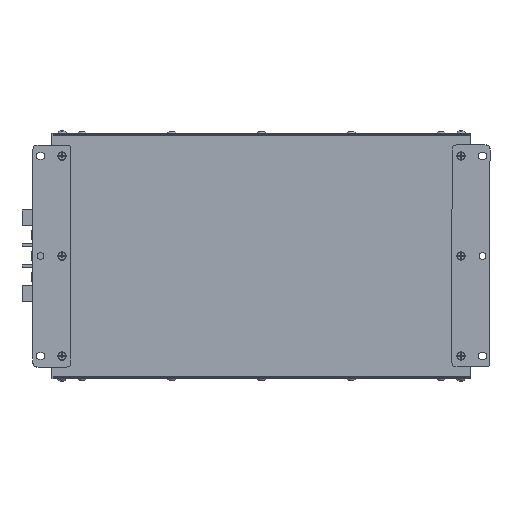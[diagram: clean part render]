
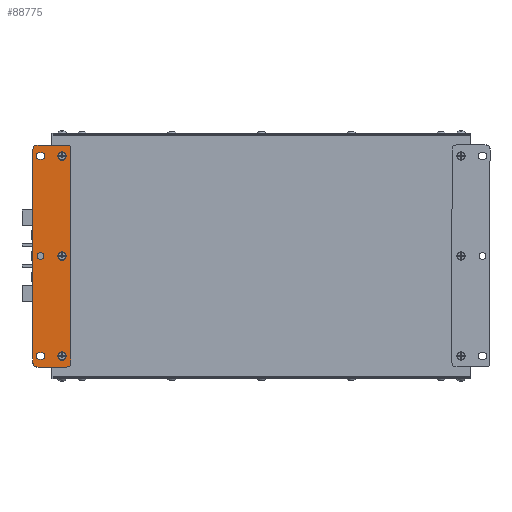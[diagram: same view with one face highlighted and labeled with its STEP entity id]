
A CAD part, front view. The second image highlights one B-rep face of the part: STEP entity #88775.
In plain terms, the highlighted planar face has unit normal (0, -1, 0).
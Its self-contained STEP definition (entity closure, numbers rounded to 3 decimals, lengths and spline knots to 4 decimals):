
#2374=CIRCLE('',#93453,0.1673);
#2375=CIRCLE('',#93455,0.1575);
#2376=CIRCLE('',#93456,0.1575);
#2377=CIRCLE('',#93457,0.1575);
#2378=CIRCLE('',#93458,0.1575);
#2379=CIRCLE('',#93459,0.1673);
#2380=CIRCLE('',#93460,0.1299);
#2381=CIRCLE('',#93461,0.1299);
#2382=CIRCLE('',#93462,0.1299);
#2383=CIRCLE('',#93463,0.1299);
#2384=CIRCLE('',#93464,0.1299);
#2385=CIRCLE('',#93465,0.1673);
#5634=FACE_BOUND('',#14171,.T.);
#5635=FACE_BOUND('',#14172,.T.);
#5636=FACE_BOUND('',#14173,.T.);
#5637=FACE_BOUND('',#14174,.T.);
#5638=FACE_BOUND('',#14175,.T.);
#5639=FACE_BOUND('',#14176,.T.);
#9636=FACE_OUTER_BOUND('',#14170,.T.);
#14170=EDGE_LOOP('',(#58555,#58556,#58557,#58558,#58559,#58560,#58561,#58562));
#14171=EDGE_LOOP('',(#58563));
#14172=EDGE_LOOP('',(#58564,#58565,#58566,#58567));
#14173=EDGE_LOOP('',(#58568,#58569,#58570,#58571));
#14174=EDGE_LOOP('',(#58572));
#14175=EDGE_LOOP('',(#58573));
#14176=EDGE_LOOP('',(#58574));
#19716=LINE('',#128077,#26827);
#19717=LINE('',#128081,#26828);
#19718=LINE('',#128085,#26829);
#19719=LINE('',#128089,#26830);
#19720=LINE('',#128095,#26831);
#19721=LINE('',#128099,#26832);
#19722=LINE('',#128103,#26833);
#19723=LINE('',#128107,#26834);
#26827=VECTOR('',#102716,0.3937);
#26828=VECTOR('',#102719,0.3937);
#26829=VECTOR('',#102722,0.3937);
#26830=VECTOR('',#102725,0.3937);
#26831=VECTOR('',#102730,0.3937);
#26832=VECTOR('',#102733,0.3937);
#26833=VECTOR('',#102736,0.3937);
#26834=VECTOR('',#102739,0.3937);
#34115=VERTEX_POINT('',#128071);
#34116=VERTEX_POINT('',#128075);
#34117=VERTEX_POINT('',#128076);
#34118=VERTEX_POINT('',#128078);
#34119=VERTEX_POINT('',#128080);
#34120=VERTEX_POINT('',#128082);
#34121=VERTEX_POINT('',#128084);
#34122=VERTEX_POINT('',#128086);
#34123=VERTEX_POINT('',#128088);
#34124=VERTEX_POINT('',#128091);
#34125=VERTEX_POINT('',#128093);
#34126=VERTEX_POINT('',#128094);
#34127=VERTEX_POINT('',#128096);
#34128=VERTEX_POINT('',#128098);
#34129=VERTEX_POINT('',#128101);
#34130=VERTEX_POINT('',#128102);
#34131=VERTEX_POINT('',#128104);
#34132=VERTEX_POINT('',#128106);
#34133=VERTEX_POINT('',#128109);
#34134=VERTEX_POINT('',#128111);
#43843=EDGE_CURVE('',#34115,#34115,#2374,.T.);
#43845=EDGE_CURVE('',#34116,#34117,#19716,.T.);
#43846=EDGE_CURVE('',#34117,#34118,#2375,.T.);
#43847=EDGE_CURVE('',#34118,#34119,#19717,.T.);
#43848=EDGE_CURVE('',#34119,#34120,#2376,.T.);
#43849=EDGE_CURVE('',#34120,#34121,#19718,.T.);
#43850=EDGE_CURVE('',#34121,#34122,#2377,.T.);
#43851=EDGE_CURVE('',#34122,#34123,#19719,.T.);
#43852=EDGE_CURVE('',#34123,#34116,#2378,.T.);
#43853=EDGE_CURVE('',#34124,#34124,#2379,.T.);
#43854=EDGE_CURVE('',#34125,#34126,#19720,.T.);
#43855=EDGE_CURVE('',#34126,#34127,#2380,.T.);
#43856=EDGE_CURVE('',#34127,#34128,#19721,.T.);
#43857=EDGE_CURVE('',#34128,#34125,#2381,.T.);
#43858=EDGE_CURVE('',#34129,#34130,#19722,.T.);
#43859=EDGE_CURVE('',#34130,#34131,#2382,.T.);
#43860=EDGE_CURVE('',#34131,#34132,#19723,.T.);
#43861=EDGE_CURVE('',#34132,#34129,#2383,.T.);
#43862=EDGE_CURVE('',#34133,#34133,#2384,.T.);
#43863=EDGE_CURVE('',#34134,#34134,#2385,.T.);
#58555=ORIENTED_EDGE('',*,*,#43845,.T.);
#58556=ORIENTED_EDGE('',*,*,#43846,.T.);
#58557=ORIENTED_EDGE('',*,*,#43847,.T.);
#58558=ORIENTED_EDGE('',*,*,#43848,.T.);
#58559=ORIENTED_EDGE('',*,*,#43849,.T.);
#58560=ORIENTED_EDGE('',*,*,#43850,.T.);
#58561=ORIENTED_EDGE('',*,*,#43851,.T.);
#58562=ORIENTED_EDGE('',*,*,#43852,.T.);
#58563=ORIENTED_EDGE('',*,*,#43853,.F.);
#58564=ORIENTED_EDGE('',*,*,#43854,.T.);
#58565=ORIENTED_EDGE('',*,*,#43855,.T.);
#58566=ORIENTED_EDGE('',*,*,#43856,.T.);
#58567=ORIENTED_EDGE('',*,*,#43857,.T.);
#58568=ORIENTED_EDGE('',*,*,#43858,.T.);
#58569=ORIENTED_EDGE('',*,*,#43859,.T.);
#58570=ORIENTED_EDGE('',*,*,#43860,.T.);
#58571=ORIENTED_EDGE('',*,*,#43861,.T.);
#58572=ORIENTED_EDGE('',*,*,#43862,.T.);
#58573=ORIENTED_EDGE('',*,*,#43863,.F.);
#58574=ORIENTED_EDGE('',*,*,#43843,.F.);
#82584=PLANE('',#93454);
#88775=ADVANCED_FACE('',(#9636,#5634,#5635,#5636,#5637,#5638,#5639),#82584,
 .T.);
#93453=AXIS2_PLACEMENT_3D('',#128072,#102711,#102712);
#93454=AXIS2_PLACEMENT_3D('',#128074,#102714,#102715);
#93455=AXIS2_PLACEMENT_3D('',#128079,#102717,#102718);
#93456=AXIS2_PLACEMENT_3D('',#128083,#102720,#102721);
#93457=AXIS2_PLACEMENT_3D('',#128087,#102723,#102724);
#93458=AXIS2_PLACEMENT_3D('',#128090,#102726,#102727);
#93459=AXIS2_PLACEMENT_3D('',#128092,#102728,#102729);
#93460=AXIS2_PLACEMENT_3D('',#128097,#102731,#102732);
#93461=AXIS2_PLACEMENT_3D('',#128100,#102734,#102735);
#93462=AXIS2_PLACEMENT_3D('',#128105,#102737,#102738);
#93463=AXIS2_PLACEMENT_3D('',#128108,#102740,#102741);
#93464=AXIS2_PLACEMENT_3D('',#128110,#102742,#102743);
#93465=AXIS2_PLACEMENT_3D('',#128112,#102744,#102745);
#102711=DIRECTION('center_axis',(0.,-1.,0.));
#102712=DIRECTION('ref_axis',(0.,0.,-1.));
#102714=DIRECTION('center_axis',(0.,-1.,0.));
#102715=DIRECTION('ref_axis',(-1.,0.,0.));
#102716=DIRECTION('',(-1.,0.,0.));
#102717=DIRECTION('center_axis',(0.,-1.,0.));
#102718=DIRECTION('ref_axis',(0.,0.,1.));
#102719=DIRECTION('',(0.,0.,-1.));
#102720=DIRECTION('center_axis',(0.,-1.,0.));
#102721=DIRECTION('ref_axis',(-1.,0.,0.));
#102722=DIRECTION('',(1.,0.,0.));
#102723=DIRECTION('center_axis',(0.,-1.,0.));
#102724=DIRECTION('ref_axis',(0.,0.,-1.));
#102725=DIRECTION('',(0.,0.,1.));
#102726=DIRECTION('center_axis',(0.,-1.,0.));
#102727=DIRECTION('ref_axis',(1.,0.,0.));
#102728=DIRECTION('center_axis',(0.,-1.,0.));
#102729=DIRECTION('ref_axis',(0.,0.,-1.));
#102730=DIRECTION('',(1.,0.,0.));
#102731=DIRECTION('center_axis',(0.,1.,0.));
#102732=DIRECTION('ref_axis',(0.,0.,1.));
#102733=DIRECTION('',(-1.,0.,0.));
#102734=DIRECTION('center_axis',(0.,1.,0.));
#102735=DIRECTION('ref_axis',(0.,0.,-1.));
#102736=DIRECTION('',(-1.,0.,0.));
#102737=DIRECTION('center_axis',(0.,1.,0.));
#102738=DIRECTION('ref_axis',(0.,0.,-1.));
#102739=DIRECTION('',(1.,0.,0.));
#102740=DIRECTION('center_axis',(0.,1.,0.));
#102741=DIRECTION('ref_axis',(0.,0.,1.));
#102742=DIRECTION('center_axis',(0.,1.,0.));
#102743=DIRECTION('ref_axis',(0.,0.,-1.));
#102744=DIRECTION('center_axis',(0.,-1.,0.));
#102745=DIRECTION('ref_axis',(0.,0.,-1.));
#128071=CARTESIAN_POINT('',(-15.9302,-0.1339,-9.4339));
#128072=CARTESIAN_POINT('Origin',(-15.9302,-0.1339,
-9.6012));
#128074=CARTESIAN_POINT('Origin',(-16.3239,-0.1339,
-5.6642));
#128075=CARTESIAN_POINT('',(-15.7333,-0.1339,-1.2941));
#128076=CARTESIAN_POINT('',(-16.9144,-0.1339,-1.2941));
#128077=CARTESIAN_POINT('',(-15.7333,-0.1339,-1.2941));
#128078=CARTESIAN_POINT('',(-17.0719,-0.1339,-1.4516));
#128079=CARTESIAN_POINT('Origin',(-16.9144,-0.1339,
-1.4516));
#128080=CARTESIAN_POINT('',(-17.0719,-0.1339,-9.8768));
#128081=CARTESIAN_POINT('',(-17.0719,-0.1339,-1.4516));
#128082=CARTESIAN_POINT('',(-16.9144,-0.1339,-10.0343));
#128083=CARTESIAN_POINT('Origin',(-16.9144,-0.1339,
-9.8768));
#128084=CARTESIAN_POINT('',(-15.7333,-0.1339,-10.0343));
#128085=CARTESIAN_POINT('',(-16.9144,-0.1339,-10.0343));
#128086=CARTESIAN_POINT('',(-15.5758,-0.1339,-9.8768));
#128087=CARTESIAN_POINT('Origin',(-15.7333,-0.1339,
-9.8768));
#128088=CARTESIAN_POINT('',(-15.5758,-0.1339,-1.4516));
#128089=CARTESIAN_POINT('',(-15.5758,-0.1339,-9.8768));
#128090=CARTESIAN_POINT('Origin',(-15.7333,-0.1339,
-1.4516));
#128091=CARTESIAN_POINT('',(-15.9302,-0.1339,-5.4969));
#128092=CARTESIAN_POINT('Origin',(-15.9302,-0.1339,
-5.6642));
#128093=CARTESIAN_POINT('',(-16.816,-0.1339,-9.4713));
#128094=CARTESIAN_POINT('',(-16.7372,-0.1339,-9.4713));
#128095=CARTESIAN_POINT('',(-16.816,-0.1339,-9.4713));
#128096=CARTESIAN_POINT('',(-16.7372,-0.1339,-9.7311));
#128097=CARTESIAN_POINT('Origin',(-16.7372,-0.1339,
-9.6012));
#128098=CARTESIAN_POINT('',(-16.816,-0.1339,-9.7311));
#128099=CARTESIAN_POINT('',(-16.7372,-0.1339,-9.7311));
#128100=CARTESIAN_POINT('Origin',(-16.816,-0.1339,
-9.6012));
#128101=CARTESIAN_POINT('',(-16.7372,-0.1339,-1.8571));
#128102=CARTESIAN_POINT('',(-16.816,-0.1339,-1.8571));
#128103=CARTESIAN_POINT('',(-16.7372,-0.1339,-1.8571));
#128104=CARTESIAN_POINT('',(-16.816,-0.1339,-1.5973));
#128105=CARTESIAN_POINT('Origin',(-16.816,-0.1339,
-1.7272));
#128106=CARTESIAN_POINT('',(-16.7372,-0.1339,-1.5973));
#128107=CARTESIAN_POINT('',(-16.816,-0.1339,-1.5973));
#128108=CARTESIAN_POINT('Origin',(-16.7372,-0.1339,
-1.7272));
#128109=CARTESIAN_POINT('',(-16.7766,-0.1339,-5.5343));
#128110=CARTESIAN_POINT('Origin',(-16.7766,-0.1339,-5.6642));
#128111=CARTESIAN_POINT('',(-15.9302,-0.1339,-1.5599));
#128112=CARTESIAN_POINT('Origin',(-15.9302,-0.1339,
-1.7272));
